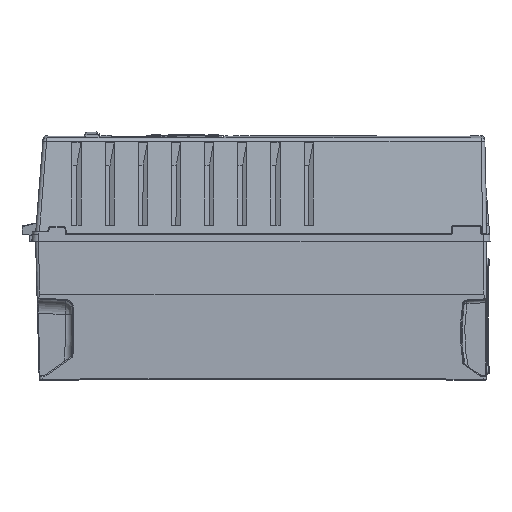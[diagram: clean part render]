
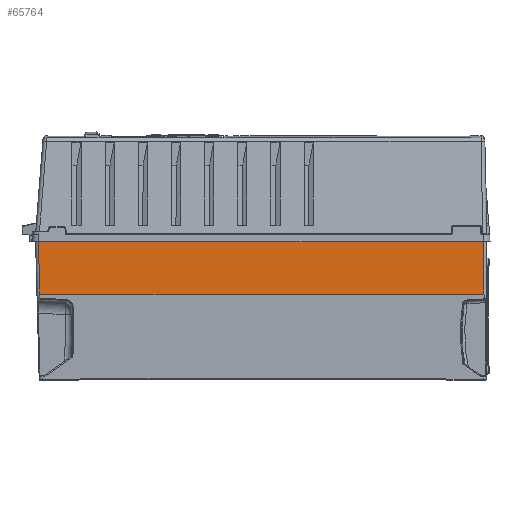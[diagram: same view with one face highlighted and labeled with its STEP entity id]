
A CAD part, left-side view. The second image highlights one B-rep face of the part: STEP entity #65764.
In plain terms, the highlighted planar face has unit normal (-1, 0, 0.024).
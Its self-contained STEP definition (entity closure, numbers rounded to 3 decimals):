
#2387=DIRECTION('',(0.,1.,0.));
#2388=VECTOR('',#2387,469.893);
#2389=CARTESIAN_POINT('',(-119.097,-235.,
-1.979));
#2390=LINE('',#2389,#2388);
#2624=CARTESIAN_POINT('',(-120.515,233.374,
-60.));
#2626=DIRECTION('',(0.,-1.,0.));
#2627=VECTOR('',#2626,468.374);
#2628=CARTESIAN_POINT('',(-120.515,233.374,
-60.));
#2629=LINE('',#2628,#2627);
#3649=DIRECTION('',(0.024,0.,1.));
#3650=VECTOR('',#3649,58.039);
#3651=CARTESIAN_POINT('',(-120.515,-235.,
-60.));
#3652=LINE('',#3651,#3650);
#3653=DIRECTION('',(0.024,0.026,0.999));
#3654=VECTOR('',#3653,58.059);
#3655=CARTESIAN_POINT('',(-120.515,233.374,
-60.));
#3656=LINE('',#3655,#3654);
#49895=CARTESIAN_POINT('',(-119.097,234.893,
-1.979));
#49896=VERTEX_POINT('',#49895);
#49897=CARTESIAN_POINT('',(-119.097,-235.,
-1.979));
#49898=VERTEX_POINT('',#49897);
#50444=VERTEX_POINT('',#2624);
#50445=CARTESIAN_POINT('',(-120.515,-235.,
-60.));
#50446=VERTEX_POINT('',#50445);
#65753=CARTESIAN_POINT('',(-120.515,-238.,-60.));
#65754=DIRECTION('',(-1.,0.,0.024));
#65755=DIRECTION('',(0.024,0.,1.));
#65756=AXIS2_PLACEMENT_3D('',#65753,#65754,#65755);
#65757=PLANE('',#65756);
#65758=ORIENTED_EDGE('',*,*,#63568,.F.);
#65759=ORIENTED_EDGE('',*,*,#65746,.F.);
#65760=ORIENTED_EDGE('',*,*,#63956,.F.);
#65761=ORIENTED_EDGE('',*,*,#63846,.T.);
#65762=EDGE_LOOP('',(#65758,#65759,#65760,#65761));
#65763=FACE_OUTER_BOUND('',#65762,.F.);
#63568=EDGE_CURVE('',#49898,#49896,#2390,.T.);
#63846=EDGE_CURVE('',#50444,#49896,#3656,.T.);
#63956=EDGE_CURVE('',#50444,#50446,#2629,.T.);
#65746=EDGE_CURVE('',#50446,#49898,#3652,.T.);
#65764=ADVANCED_FACE('',(#65763),#65757,.T.);
